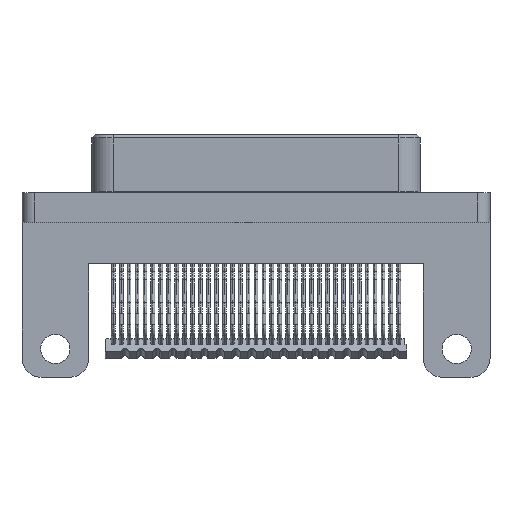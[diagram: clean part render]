
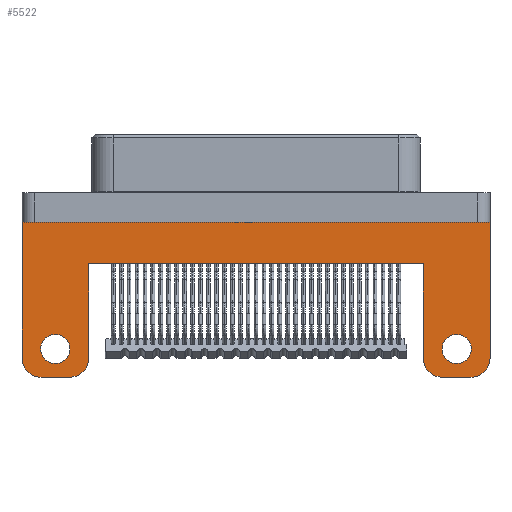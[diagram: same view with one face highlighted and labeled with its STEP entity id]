
A CAD part, front view. The second image highlights one B-rep face of the part: STEP entity #5522.
In plain terms, the highlighted planar face has unit normal (0, -1, 0).
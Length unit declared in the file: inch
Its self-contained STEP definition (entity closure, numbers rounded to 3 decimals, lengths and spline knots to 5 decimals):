
#8 = DIRECTION ( 'NONE',  ( 0., 0., 1. ) ) ;
#831 = VECTOR ( 'NONE', #22710, 39.37008 ) ;
#978 = AXIS2_PLACEMENT_3D ( 'NONE', #13906, #54805, #19781 ) ;
#2719 = LINE ( 'NONE', #63649, #831 ) ;
#3124 = DIRECTION ( 'NONE',  ( 0., 1., 0. ) ) ;
#4046 = EDGE_CURVE ( 'NONE', #46445, #74967, #51508, .T. ) ;
#4581 = LINE ( 'NONE', #57440, #49379 ) ;
#4822 = CARTESIAN_POINT ( 'NONE',  ( 0.6775, -0.17, -0.479 ) ) ;
#5522 = ADVANCED_FACE ( 'NONE', ( #54235, #9438, #24932 ), #67278, .F. ) ;
#7110 = LINE ( 'NONE', #52167, #55605 ) ;
#7375 = ORIENTED_EDGE ( 'NONE', *, *, #70017, .F. ) ;
#7508 = CARTESIAN_POINT ( 'NONE',  ( -0.6325, -0.17, -0.404 ) ) ;
#8882 = CARTESIAN_POINT ( 'NONE',  ( -0.6325, -0.17, -0.496 ) ) ;
#9204 = CIRCLE ( 'NONE', #45716, 0.06 ) ;
#9438 = FACE_BOUND ( 'NONE', #48090, .T. ) ;
#9769 = CARTESIAN_POINT ( 'NONE',  ( -0.7375, -0.17, -0.539 ) ) ;
#10240 = CARTESIAN_POINT ( 'NONE',  ( 0.6325, -0.17, -0.45 ) ) ;
#10342 = EDGE_CURVE ( 'NONE', #15119, #54143, #46173, .T. ) ;
#10683 = DIRECTION ( 'NONE',  ( 0., 0., 1. ) ) ;
#13233 = CARTESIAN_POINT ( 'NONE',  ( -0.5875, -0.17, -0.539 ) ) ;
#13317 = VECTOR ( 'NONE', #8, 39.37008 ) ;
#13906 = CARTESIAN_POINT ( 'NONE',  ( 0.6325, -0.17, -0.45 ) ) ;
#14218 = CARTESIAN_POINT ( 'NONE',  ( -0.5875, -0.17, -0.479 ) ) ;
#14246 = CARTESIAN_POINT ( 'NONE',  ( 0.5875, -0.17, -0.539 ) ) ;
#15116 = AXIS2_PLACEMENT_3D ( 'NONE', #63044, #28032, #68929 ) ;
#15119 = VERTEX_POINT ( 'NONE', #8882 ) ;
#15218 = CARTESIAN_POINT ( 'NONE',  ( 0.7375, -0.17, -0.182 ) ) ;
#16087 = EDGE_CURVE ( 'NONE', #58186, #59344, #2719, .T. ) ;
#16093 = DIRECTION ( 'NONE',  ( 0., 0., 1. ) ) ;
#16205 = ORIENTED_EDGE ( 'NONE', *, *, #67635, .T. ) ;
#17105 = DIRECTION ( 'NONE',  ( -1., 0., 0. ) ) ;
#17176 = LINE ( 'NONE', #15218, #30945 ) ;
#18389 = CARTESIAN_POINT ( 'NONE',  ( -0.7375, -0.17, -0.479 ) ) ;
#18810 = EDGE_CURVE ( 'NONE', #59344, #60091, #17176, .T. ) ;
#19167 = CARTESIAN_POINT ( 'NONE',  ( -0.6775, -0.17, -0.539 ) ) ;
#19471 = DIRECTION ( 'NONE',  ( 0., 0., 1. ) ) ;
#19781 = DIRECTION ( 'NONE',  ( 0., 0., 1. ) ) ;
#20085 = DIRECTION ( 'NONE',  ( 0., 0., 1. ) ) ;
#20441 = VECTOR ( 'NONE', #19471, 39.37008 ) ;
#22283 = DIRECTION ( 'NONE',  ( -1., 0., 0. ) ) ;
#22294 = CARTESIAN_POINT ( 'NONE',  ( 0.7375, -0.17, -0.051 ) ) ;
#22330 = CARTESIAN_POINT ( 'NONE',  ( 0.7375, -0.17, -0.479 ) ) ;
#22710 = DIRECTION ( 'NONE',  ( 0., 0., 1. ) ) ;
#22721 = AXIS2_PLACEMENT_3D ( 'NONE', #4822, #45688, #10683 ) ;
#23189 = EDGE_CURVE ( 'NONE', #30435, #32061, #39576, .T. ) ;
#24267 = CARTESIAN_POINT ( 'NONE',  ( -0.5275, -0.17, -0.479 ) ) ;
#24392 = EDGE_CURVE ( 'NONE', #43278, #32061, #9204, .T. ) ;
#24582 = CARTESIAN_POINT ( 'NONE',  ( -0.6325, -0.17, -0.45 ) ) ;
#24780 = ORIENTED_EDGE ( 'NONE', *, *, #10342, .T. ) ;
#24932 = FACE_OUTER_BOUND ( 'NONE', #49849, .T. ) ;
#25112 = EDGE_CURVE ( 'NONE', #30435, #58186, #31601, .T. ) ;
#25134 = DIRECTION ( 'NONE',  ( 0., -1., 0. ) ) ;
#25940 = CARTESIAN_POINT ( 'NONE',  ( -0.5275, -0.17, -0.182 ) ) ;
#26478 = CARTESIAN_POINT ( 'NONE',  ( 0.6775, -0.17, -0.539 ) ) ;
#27054 = AXIS2_PLACEMENT_3D ( 'NONE', #10240, #51141, #16093 ) ;
#27409 = VECTOR ( 'NONE', #22283, 39.37008 ) ;
#27673 = CIRCLE ( 'NONE', #15116, 0.046 ) ;
#28032 = DIRECTION ( 'NONE',  ( 0., 1., 0. ) ) ;
#28427 = DIRECTION ( 'NONE',  ( 0., -1., 0. ) ) ;
#29991 = ORIENTED_EDGE ( 'NONE', *, *, #23189, .F. ) ;
#30435 = VERTEX_POINT ( 'NONE', #13233 ) ;
#30510 = DIRECTION ( 'NONE',  ( 0., 0., 1. ) ) ;
#30853 = ORIENTED_EDGE ( 'NONE', *, *, #45141, .T. ) ;
#30945 = VECTOR ( 'NONE', #67660, 39.37008 ) ;
#31601 = CIRCLE ( 'NONE', #68806, 0.06 ) ;
#32061 = VERTEX_POINT ( 'NONE', #19167 ) ;
#32576 = LINE ( 'NONE', #35050, #13317 ) ;
#33175 = CARTESIAN_POINT ( 'NONE',  ( 0.6325, -0.17, -0.404 ) ) ;
#33267 = AXIS2_PLACEMENT_3D ( 'NONE', #60170, #25134, #66065 ) ;
#34068 = CARTESIAN_POINT ( 'NONE',  ( 0.7375, -0.17, -0.051 ) ) ;
#34190 = EDGE_CURVE ( 'NONE', #48505, #44840, #60915, .T. ) ;
#35050 = CARTESIAN_POINT ( 'NONE',  ( 0.5275, -0.17, -1.3384 ) ) ;
#35586 = EDGE_LOOP ( 'NONE', ( #42155, #24780 ) ) ;
#36886 = CARTESIAN_POINT ( 'NONE',  ( 0.7375, -0.17, -1.69131 ) ) ;
#37751 = VECTOR ( 'NONE', #38936, 39.37008 ) ;
#37868 = LINE ( 'NONE', #36886, #20441 ) ;
#38936 = DIRECTION ( 'NONE',  ( -1., 0., 0. ) ) ;
#38961 = ORIENTED_EDGE ( 'NONE', *, *, #62167, .F. ) ;
#39576 = LINE ( 'NONE', #9769, #37751 ) ;
#40537 = EDGE_CURVE ( 'NONE', #48505, #60414, #7110, .T. ) ;
#41411 = VERTEX_POINT ( 'NONE', #22294 ) ;
#42155 = ORIENTED_EDGE ( 'NONE', *, *, #60626, .T. ) ;
#42248 = ORIENTED_EDGE ( 'NONE', *, *, #4046, .T. ) ;
#43278 = VERTEX_POINT ( 'NONE', #18389 ) ;
#43741 = CARTESIAN_POINT ( 'NONE',  ( 0.7375, -0.17, -1.69131 ) ) ;
#43917 = CIRCLE ( 'NONE', #978, 0.046 ) ;
#43991 = DIRECTION ( 'NONE',  ( 0., 0., 1. ) ) ;
#44034 = AXIS2_PLACEMENT_3D ( 'NONE', #24582, #65534, #30510 ) ;
#44840 = VERTEX_POINT ( 'NONE', #22330 ) ;
#45141 = EDGE_CURVE ( 'NONE', #44840, #41411, #37868, .T. ) ;
#45665 = DIRECTION ( 'NONE',  ( 0., 0., 1. ) ) ;
#45688 = DIRECTION ( 'NONE',  ( 0., -1., 0. ) ) ;
#45703 = AXIS2_PLACEMENT_3D ( 'NONE', #43741, #3124, #43991 ) ;
#45716 = AXIS2_PLACEMENT_3D ( 'NONE', #63456, #28427, #69322 ) ;
#46173 = CIRCLE ( 'NONE', #44034, 0.046 ) ;
#46445 = VERTEX_POINT ( 'NONE', #33175 ) ;
#47754 = ORIENTED_EDGE ( 'NONE', *, *, #24392, .T. ) ;
#48090 = EDGE_LOOP ( 'NONE', ( #42248, #52999 ) ) ;
#48505 = VERTEX_POINT ( 'NONE', #26478 ) ;
#49011 = ORIENTED_EDGE ( 'NONE', *, *, #25112, .T. ) ;
#49379 = VECTOR ( 'NONE', #45665, 39.37008 ) ;
#49849 = EDGE_LOOP ( 'NONE', ( #58228, #71409, #30853, #16205, #38961, #47754, #29991, #49011, #66804, #53168, #7375, #54061 ) ) ;
#51141 = DIRECTION ( 'NONE',  ( 0., 1., 0. ) ) ;
#51508 = CIRCLE ( 'NONE', #27054, 0.046 ) ;
#52122 = CARTESIAN_POINT ( 'NONE',  ( 0.5275, -0.17, -0.479 ) ) ;
#52167 = CARTESIAN_POINT ( 'NONE',  ( 0.7375, -0.17, -0.539 ) ) ;
#52999 = ORIENTED_EDGE ( 'NONE', *, *, #67377, .T. ) ;
#53108 = VERTEX_POINT ( 'NONE', #66043 ) ;
#53168 = ORIENTED_EDGE ( 'NONE', *, *, #18810, .T. ) ;
#54061 = ORIENTED_EDGE ( 'NONE', *, *, #66131, .T. ) ;
#54143 = VERTEX_POINT ( 'NONE', #7508 ) ;
#54235 = FACE_BOUND ( 'NONE', #35586, .T. ) ;
#54805 = DIRECTION ( 'NONE',  ( 0., 1., 0. ) ) ;
#55119 = DIRECTION ( 'NONE',  ( 0., -1., 0. ) ) ;
#55605 = VECTOR ( 'NONE', #17105, 39.37008 ) ;
#57440 = CARTESIAN_POINT ( 'NONE',  ( -0.7375, -0.17, -1.69131 ) ) ;
#58186 = VERTEX_POINT ( 'NONE', #24267 ) ;
#58228 = ORIENTED_EDGE ( 'NONE', *, *, #40537, .F. ) ;
#58487 = LINE ( 'NONE', #34068, #27409 ) ;
#59344 = VERTEX_POINT ( 'NONE', #25940 ) ;
#60091 = VERTEX_POINT ( 'NONE', #69269 ) ;
#60170 = CARTESIAN_POINT ( 'NONE',  ( 0.5875, -0.17, -0.479 ) ) ;
#60414 = VERTEX_POINT ( 'NONE', #14246 ) ;
#60626 = EDGE_CURVE ( 'NONE', #54143, #15119, #27673, .T. ) ;
#60915 = CIRCLE ( 'NONE', #22721, 0.06 ) ;
#61216 = CARTESIAN_POINT ( 'NONE',  ( 0.6325, -0.17, -0.496 ) ) ;
#62167 = EDGE_CURVE ( 'NONE', #43278, #53108, #4581, .T. ) ;
#62391 = CIRCLE ( 'NONE', #33267, 0.06 ) ;
#63044 = CARTESIAN_POINT ( 'NONE',  ( -0.6325, -0.17, -0.45 ) ) ;
#63456 = CARTESIAN_POINT ( 'NONE',  ( -0.6775, -0.17, -0.479 ) ) ;
#63649 = CARTESIAN_POINT ( 'NONE',  ( -0.5275, -0.17, -1.3384 ) ) ;
#65359 = VERTEX_POINT ( 'NONE', #52122 ) ;
#65534 = DIRECTION ( 'NONE',  ( 0., 1., 0. ) ) ;
#66043 = CARTESIAN_POINT ( 'NONE',  ( -0.7375, -0.17, -0.051 ) ) ;
#66065 = DIRECTION ( 'NONE',  ( 0., 0., 1. ) ) ;
#66131 = EDGE_CURVE ( 'NONE', #65359, #60414, #62391, .T. ) ;
#66804 = ORIENTED_EDGE ( 'NONE', *, *, #16087, .T. ) ;
#67278 = PLANE ( 'NONE',  #45703 ) ;
#67377 = EDGE_CURVE ( 'NONE', #74967, #46445, #43917, .T. ) ;
#67635 = EDGE_CURVE ( 'NONE', #41411, #53108, #58487, .T. ) ;
#67660 = DIRECTION ( 'NONE',  ( 1., 0., 0. ) ) ;
#68806 = AXIS2_PLACEMENT_3D ( 'NONE', #14218, #55119, #20085 ) ;
#68929 = DIRECTION ( 'NONE',  ( 0., 0., 1. ) ) ;
#69269 = CARTESIAN_POINT ( 'NONE',  ( 0.5275, -0.17, -0.182 ) ) ;
#69322 = DIRECTION ( 'NONE',  ( 0., 0., 1. ) ) ;
#70017 = EDGE_CURVE ( 'NONE', #65359, #60091, #32576, .T. ) ;
#71409 = ORIENTED_EDGE ( 'NONE', *, *, #34190, .T. ) ;
#74967 = VERTEX_POINT ( 'NONE', #61216 ) ;
